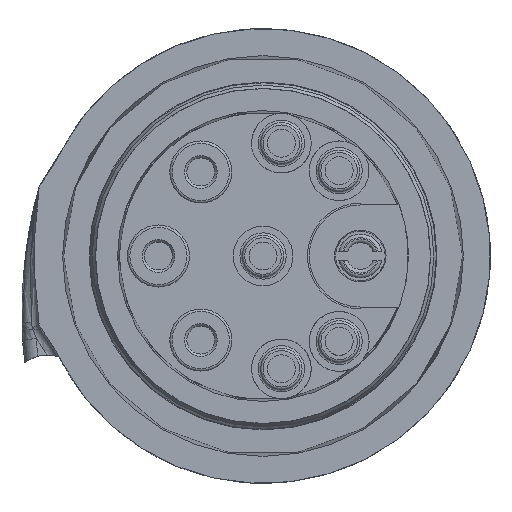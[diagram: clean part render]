
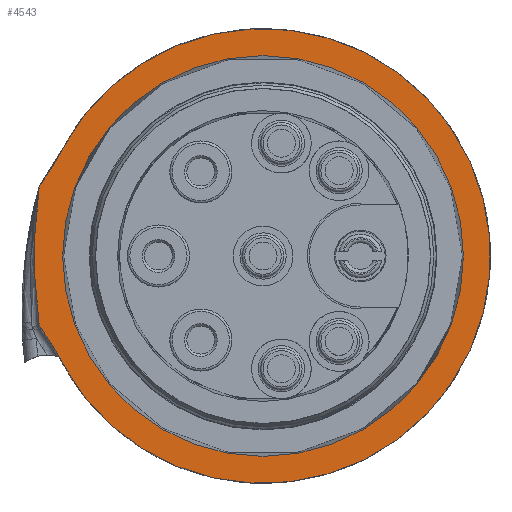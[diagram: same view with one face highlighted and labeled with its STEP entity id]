
A CAD part, left-side view. The second image highlights one B-rep face of the part: STEP entity #4543.
In plain terms, the highlighted planar face has unit normal (-1, 0, 0).
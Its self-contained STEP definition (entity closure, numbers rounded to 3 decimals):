
#4383=CARTESIAN_POINT('',(-3.5,9.115,2.998));
#4384=VERTEX_POINT('',#4383);
#4391=CARTESIAN_POINT('',(-3.5,8.233,4.436));
#4392=VERTEX_POINT('',#4391);
#4393=CARTESIAN_POINT('',(-3.5,17.169,8.924));
#4394=DIRECTION('',(-1.0,0.,0.));
#4395=DIRECTION('',(0.,0.894,0.449));
#4396=AXIS2_PLACEMENT_3D('',#4393,#4394,#4395);
#4397=CIRCLE('',#4396,10.0);
#4398=EDGE_CURVE('',#4384,#4392,#4397,.T.);
#4415=CARTESIAN_POINT('',(-3.5,9.207,2.77));
#4416=VERTEX_POINT('',#4415);
#4417=CARTESIAN_POINT('',(-3.5,8.712,2.701));
#4418=DIRECTION('',(1.0,0.,0.));
#4419=DIRECTION('',(0.,0.926,0.377));
#4420=AXIS2_PLACEMENT_3D('',#4417,#4418,#4419);
#4421=CIRCLE('',#4420,0.5);
#4422=EDGE_CURVE('',#4416,#4384,#4421,.T.);
#4473=CARTESIAN_POINT('',(-3.5,8.795,0.));
#4474=DIRECTION('',(-1.0,0.0,0.0));
#4475=DIRECTION('',(0.0,0.0,1.0));
#4476=AXIS2_PLACEMENT_3D('',#4473,#4474,#4475);
#4477=PLANE('',#4476);
#4478=ORIENTED_EDGE('',*,*,#4422,.F.);
#4479=CARTESIAN_POINT('',(-3.5,9.207,-2.77));
#4480=VERTEX_POINT('',#4479);
#4481=CARTESIAN_POINT('',(-3.5,-10.6,0.));
#4482=DIRECTION('',(1.,0.,0.));
#4483=DIRECTION('',(0.,0.989,-0.145));
#4484=AXIS2_PLACEMENT_3D('',#4481,#4482,#4483);
#4485=CIRCLE('',#4484,20.);
#4486=EDGE_CURVE('',#4480,#4416,#4485,.T.);
#4487=ORIENTED_EDGE('',*,*,#4486,.F.);
#4488=CARTESIAN_POINT('',(-3.5,9.115,-2.998));
#4489=VERTEX_POINT('',#4488);
#4490=CARTESIAN_POINT('',(-3.5,8.712,-2.701));
#4491=DIRECTION('',(1.0,0.,0.));
#4492=DIRECTION('',(0.,0.926,-0.377));
#4493=AXIS2_PLACEMENT_3D('',#4490,#4491,#4492);
#4494=CIRCLE('',#4493,0.5);
#4495=EDGE_CURVE('',#4489,#4480,#4494,.T.);
#4496=ORIENTED_EDGE('',*,*,#4495,.F.);
#4497=CARTESIAN_POINT('',(-3.5,8.233,-4.436));
#4498=VERTEX_POINT('',#4497);
#4499=CARTESIAN_POINT('',(-3.5,17.169,-8.924));
#4500=DIRECTION('',(-1.0,0.,0.));
#4501=DIRECTION('',(0.,0.798,-0.603));
#4502=AXIS2_PLACEMENT_3D('',#4499,#4500,#4501);
#4503=CIRCLE('',#4502,10.0);
#4504=EDGE_CURVE('',#4498,#4489,#4503,.T.);
#4505=ORIENTED_EDGE('',*,*,#4504,.F.);
#4506=CARTESIAN_POINT('',(-3.5,8.231,-4.436));
#4507=VERTEX_POINT('',#4506);
#4508=CARTESIAN_POINT('',(-3.5,8.231,-4.436));
#4509=DIRECTION('',(0.0,1.0,0.0));
#4510=VECTOR('',#4509,0.002);
#4511=LINE('',#4508,#4510);
#4512=EDGE_CURVE('',#4507,#4498,#4511,.T.);
#4513=ORIENTED_EDGE('',*,*,#4512,.F.);
#4514=CARTESIAN_POINT('',(-3.5,8.231,4.436));
#4515=VERTEX_POINT('',#4514);
#4516=CARTESIAN_POINT('',(-3.5,0.,0.));
#4517=DIRECTION('',(1.0,0.0,0.0));
#4518=DIRECTION('',(0.0,1.0,0.0));
#4519=AXIS2_PLACEMENT_3D('',#4516,#4517,#4518);
#4520=CIRCLE('',#4519,9.35);
#4521=EDGE_CURVE('',#4515,#4507,#4520,.T.);
#4522=ORIENTED_EDGE('',*,*,#4521,.F.);
#4523=CARTESIAN_POINT('',(-3.5,8.233,4.436));
#4524=DIRECTION('',(0.0,-1.0,0.0));
#4525=VECTOR('',#4524,0.002);
#4526=LINE('',#4523,#4525);
#4527=EDGE_CURVE('',#4392,#4515,#4526,.T.);
#4528=ORIENTED_EDGE('',*,*,#4527,.F.);
#4529=ORIENTED_EDGE('',*,*,#4398,.F.);
#4530=EDGE_LOOP('',(#4478,#4487,#4496,#4505,#4513,#4522,#4528,#4529));
#4531=FACE_OUTER_BOUND('',#4530,.T.);
#4532=CARTESIAN_POINT('',(-3.5,8.24,0.));
#4533=VERTEX_POINT('',#4532);
#4534=CARTESIAN_POINT('',(-3.5,0.,0.));
#4535=DIRECTION('',(1.0,0.0,0.0));
#4536=DIRECTION('',(0.0,1.0,0.0));
#4537=AXIS2_PLACEMENT_3D('',#4534,#4535,#4536);
#4538=CIRCLE('',#4537,8.24);
#4539=EDGE_CURVE('',#4533,#4533,#4538,.T.);
#4540=ORIENTED_EDGE('',*,*,#4539,.T.);
#4541=EDGE_LOOP('',(#4540));
#4542=FACE_BOUND('',#4541,.T.);
#4543=ADVANCED_FACE('',(#4531,#4542),#4477,.T.);
